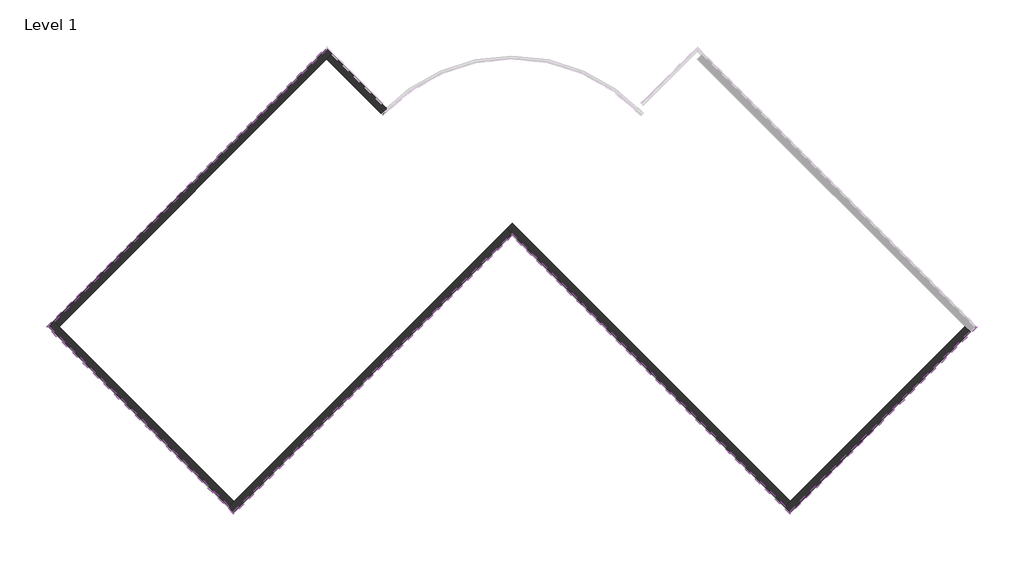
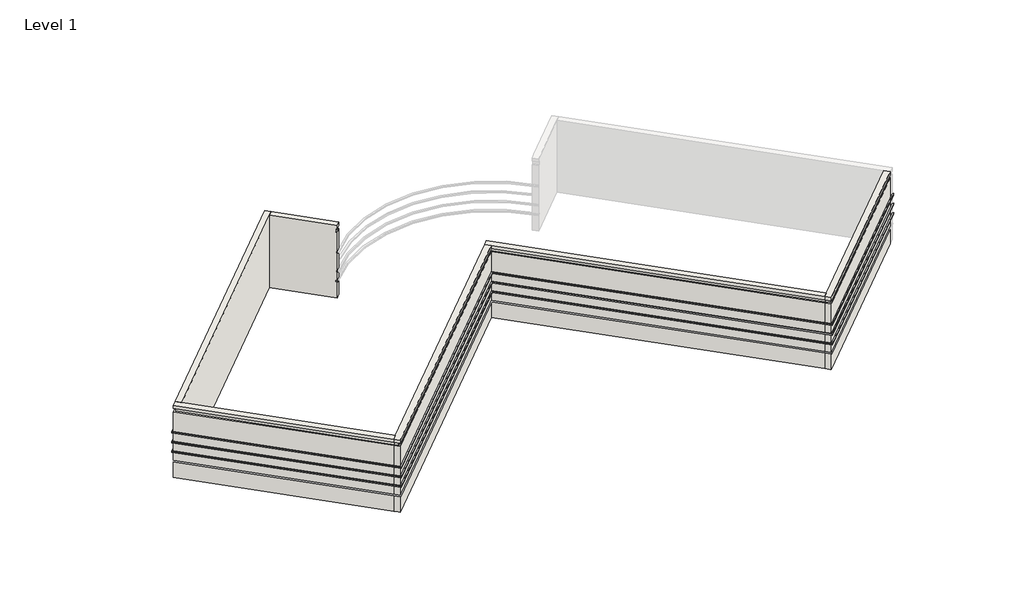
# One storey, part 1 of 2: 15 proxies, 6 walls.
"""IFC4 building model written with IfcOpenShell, lengths in millimetres."""

from ifc_helpers import new_model, si_unit, frame, origin, place, context, project, spatial, polyline, circle_curve, outline, extrude, faceted_brep, element, save
from ifc_brep_helpers import plane_surface, revolved_surface, advanced_brep

model = new_model("IFC4")

# Units and contexts
model_context = context("Model", 3, world=origin())
ifc_project = project(units=[si_unit("LENGTHUNIT", "METRE", prefix="MILLI")], contexts=[model_context])

# Site, building, storey
site = spatial("IfcSite", under=ifc_project)
building = spatial("IfcBuilding", under=site)
storey = spatial("IfcBuildingStorey", under=building, Name="Level 1", Elevation=0.0)

# Proxies
placement = place(None, origin())
element("IfcBuildingElementProxy", 1, Name="Reveals", at=placement, inside=storey, context=model_context, shape_type="SweptSolid", body=[
    extrude(outline(polyline([(21463.479104, 1676.4478837), (21593.6928178, 1676.4478837), (12878.3542523, -7038.8906818), (12878.3542523, -6908.6769681), (21463.479104, 1676.4478837)])), frame((0.0, 0.0, 1625.6), z_axis=(0.0, 0.0, 1.0), x_axis=(1.0, 0.0, 0.0)), (0.0, 0.0, 1.0), 67.7333333),
])
element("IfcBuildingElementProxy", 2, Name="Reveals", at=placement, inside=storey, context=model_context, shape_type="SweptSolid", body=[
    extrude(outline(polyline([(21463.479104, 1676.4478837), (21593.6928178, 1676.4478837), (12878.3542523, -7038.8906818), (12878.3542523, -6908.6769681), (21463.479104, 1676.4478837)])), frame((0.0, 0.0, 2235.2), z_axis=(0.0, 0.0, 1.0), x_axis=(1.0, 0.0, 0.0)), (0.0, 0.0, 1.0), 67.7333333),
])
element("IfcBuildingElementProxy", 3, Name="Reveals", at=placement, inside=storey, context=model_context, shape_type="SweptSolid", body=[
    extrude(outline(polyline([(21463.479104, 1676.4478837), (21593.6928178, 1676.4478837), (12878.3542523, -7038.8906818), (12878.3542523, -6908.6769681), (21463.479104, 1676.4478837)])), frame((0.0, 0.0, 2844.8), z_axis=(0.0, 0.0, 1.0), x_axis=(1.0, 0.0, 0.0)), (0.0, 0.0, 1.0), 67.7333333),
])
element("IfcBuildingElementProxy", 4, Name="Reveals", at=placement, inside=storey, context=model_context, shape_type="SweptSolid", body=[
    extrude(outline(polyline([(12878.3542523, -6908.6769681), (12878.3542523, -7038.8906818), (-53.2145621, 5892.6781325), (-53.2145621, 6022.8918463), (12878.3542523, -6908.6769681)])), frame((0.0, 0.0, 1625.6), z_axis=(0.0, 0.0, 1.0), x_axis=(1.0, 0.0, 0.0)), (0.0, 0.0, 1.0), 67.7333333),
])
element("IfcBuildingElementProxy", 5, Name="Reveals", at=placement, inside=storey, context=model_context, shape_type="SweptSolid", body=[
    extrude(outline(polyline([(12878.3542523, -6908.6769681), (12878.3542523, -7038.8906818), (-53.2145621, 5892.6781325), (-53.2145621, 6022.8918463), (12878.3542523, -6908.6769681)])), frame((0.0, 0.0, 2235.2), z_axis=(0.0, 0.0, 1.0), x_axis=(1.0, 0.0, 0.0)), (0.0, 0.0, 1.0), 67.7333333),
])
element("IfcBuildingElementProxy", 6, Name="Reveals", at=placement, inside=storey, context=model_context, shape_type="SweptSolid", body=[
    extrude(outline(polyline([(12878.3542523, -6908.6769681), (12878.3542523, -7038.8906818), (-53.2145621, 5892.6781325), (-53.2145621, 6022.8918463), (12878.3542523, -6908.6769681)])), frame((0.0, 0.0, 2844.8), z_axis=(0.0, 0.0, 1.0), x_axis=(1.0, 0.0, 0.0)), (0.0, 0.0, 1.0), 67.7333333),
])
element("IfcBuildingElementProxy", 7, Name="Reveals", at=placement, inside=storey, context=model_context, shape_type="SweptSolid", body=[
    extrude(outline(polyline([(-53.2145621, 6022.8918463), (-53.2145621, 5892.6781325), (-12984.7833764, -7038.8906818), (-12984.7833764, -6908.6769681), (-53.2145621, 6022.8918463)])), frame((0.0, 0.0, 1625.6), z_axis=(0.0, 0.0, 1.0), x_axis=(1.0, 0.0, 0.0)), (0.0, 0.0, 1.0), 67.7333333),
])
element("IfcBuildingElementProxy", 8, Name="Reveals", at=placement, inside=storey, context=model_context, shape_type="SweptSolid", body=[
    extrude(outline(polyline([(-53.2145621, 6022.8918463), (-53.2145621, 5892.6781325), (-12984.7833764, -7038.8906818), (-12984.7833764, -6908.6769681), (-53.2145621, 6022.8918463)])), frame((0.0, 0.0, 2235.2), z_axis=(0.0, 0.0, 1.0), x_axis=(1.0, 0.0, 0.0)), (0.0, 0.0, 1.0), 67.7333333),
])
element("IfcBuildingElementProxy", 9, Name="Reveals", at=placement, inside=storey, context=model_context, shape_type="SweptSolid", body=[
    extrude(outline(polyline([(-53.2145621, 6022.8918463), (-53.2145621, 5892.6781325), (-12984.7833764, -7038.8906818), (-12984.7833764, -6908.6769681), (-53.2145621, 6022.8918463)])), frame((0.0, 0.0, 2844.8), z_axis=(0.0, 0.0, 1.0), x_axis=(1.0, 0.0, 0.0)), (0.0, 0.0, 1.0), 67.7333333),
])
element("IfcBuildingElementProxy", 10, Name="Reveals", at=placement, inside=storey, context=model_context, shape_type="SweptSolid", body=[
    extrude(outline(polyline([(-12984.7833764, -6908.6769681), (-12984.7833764, -7038.8906818), (-21700.1219419, 1676.4478837), (-21569.9082281, 1676.4478837), (-12984.7833764, -6908.6769681)])), frame((0.0, 0.0, 1625.6), z_axis=(0.0, 0.0, 1.0), x_axis=(1.0, 0.0, 0.0)), (0.0, 0.0, 1.0), 67.7333333),
])
element("IfcBuildingElementProxy", 11, Name="Reveals", at=placement, inside=storey, context=model_context, shape_type="SweptSolid", body=[
    extrude(outline(polyline([(-12984.7833764, -6908.6769681), (-12984.7833764, -7038.8906818), (-21700.1219419, 1676.4478837), (-21569.9082281, 1676.4478837), (-12984.7833764, -6908.6769681)])), frame((0.0, 0.0, 2235.2), z_axis=(0.0, 0.0, 1.0), x_axis=(1.0, 0.0, 0.0)), (0.0, 0.0, 1.0), 67.7333333),
])
element("IfcBuildingElementProxy", 12, Name="Reveals", at=placement, inside=storey, context=model_context, shape_type="SweptSolid", body=[
    extrude(outline(polyline([(-12984.7833764, -6908.6769681), (-12984.7833764, -7038.8906818), (-21700.1219419, 1676.4478837), (-21569.9082281, 1676.4478837), (-12984.7833764, -6908.6769681)])), frame((0.0, 0.0, 2844.8), z_axis=(0.0, 0.0, 1.0), x_axis=(1.0, 0.0, 0.0)), (0.0, 0.0, 1.0), 67.7333333),
])
element("IfcBuildingElementProxy", 13, Name="Reveals", at=placement, inside=storey, context=model_context, shape_type="SweptSolid", body=[
    extrude(outline(polyline([(-21569.9082281, 1676.4478837), (-21700.1219419, 1676.4478837), (-8674.2604383, 14702.3093873), (-8674.2604383, 14572.0956735), (-21569.9082281, 1676.4478837)])), frame((0.0, 0.0, 1625.6), z_axis=(0.0, 0.0, 1.0), x_axis=(1.0, 0.0, 0.0)), (0.0, 0.0, 1.0), 67.7333333),
])
element("IfcBuildingElementProxy", 14, Name="Reveals", at=placement, inside=storey, context=model_context, shape_type="SweptSolid", body=[
    extrude(outline(polyline([(-21569.9082281, 1676.4478837), (-21700.1219419, 1676.4478837), (-8674.2604383, 14702.3093873), (-8674.2604383, 14572.0956735), (-21569.9082281, 1676.4478837)])), frame((0.0, 0.0, 2235.2), z_axis=(0.0, 0.0, 1.0), x_axis=(1.0, 0.0, 0.0)), (0.0, 0.0, 1.0), 67.7333333),
])
element("IfcBuildingElementProxy", 15, Name="Reveals", at=placement, inside=storey, context=model_context, shape_type="SweptSolid", body=[
    extrude(outline(polyline([(-21569.9082281, 1676.4478837), (-21700.1219419, 1676.4478837), (-8674.2604383, 14702.3093873), (-8674.2604383, 14572.0956735), (-21569.9082281, 1676.4478837)])), frame((0.0, 0.0, 2844.8), z_axis=(0.0, 0.0, 1.0), x_axis=(1.0, 0.0, 0.0)), (0.0, 0.0, 1.0), 67.7333333),
])

# Walls
element("IfcWall", 16, ObjectType="Exterior - Brick and CMU on MTL. Stud", at=placement, inside=storey, context=model_context, shape_type="Brep", body=[
    faceted_brep([(21000.9959138, 1676.4478837, 0.0), (12878.3542523, -6446.1937778, 0.0), (12629.1521449, -6695.3958852, 0.0), (12629.1521449, -6695.3958852, 1016.0), (12694.2590018, -6630.2890283, 1016.0), (12694.2590018, -6630.2890283, 1085.85), (12629.1521449, -6695.3958852, 1085.85), (12629.1521449, -6695.3958852, 1625.6), (12647.1126572, -6677.435373, 1625.6), (12647.1126572, -6677.435373, 1693.3333333), (12629.1521449, -6695.3958852, 1693.3333333), (12629.1521449, -6695.3958852, 2235.2), (12647.1126572, -6677.435373, 2235.2), (12647.1126572, -6677.435373, 2302.9333333), (12629.1521449, -6695.3958852, 2302.9333333), (12629.1521449, -6695.3958852, 2844.8), (12647.1126572, -6677.435373, 2844.8), (12647.1126572, -6677.435373, 2912.5333333), (12629.1521449, -6695.3958852, 2912.5333333), (12629.1521449, -6695.3958852, 4165.6), (12694.2590018, -6630.2890283, 4165.6), (12694.2590018, -6630.2890283, 4368.8), (12629.1521449, -6695.3958852, 4368.8), (12629.1521449, -6695.3958852, 4572.0), (12878.3542523, -6446.1937778, 4572.0), (21000.9959138, 1676.4478837, 4572.0), (21250.1980211, 1427.2457763, 4572.0), (12878.3542523, -6944.5979926, 4572.0), (12878.3542523, -6944.5979926, 4368.8), (21250.1980211, 1427.2457763, 4368.8), (12878.3542523, -6944.5979926, 0.0), (21250.1980211, 1427.2457763, 0.0), (21250.1980211, 1427.2457763, 1016.0), (12878.3542523, -6944.5979926, 1016.0), (12878.3542523, -6944.5979926, 1085.85), (21250.1980211, 1427.2457763, 1085.85), (21250.1980211, 1427.2457763, 1625.6), (12878.3542523, -6944.5979926, 1625.6), (21250.1980211, 1427.2457763, 4165.6), (12878.3542523, -6944.5979926, 4165.6), (12878.3542523, -6944.5979926, 2912.5333333), (21250.1980211, 1427.2457763, 2912.5333333), (12878.3542523, -6944.5979926, 1693.3333333), (21250.1980211, 1427.2457763, 1693.3333333), (21250.1980211, 1427.2457763, 2235.2), (12878.3542523, -6944.5979926, 2235.2), (12878.3542523, -6944.5979926, 2302.9333333), (21250.1980211, 1427.2457763, 2302.9333333), (21250.1980211, 1427.2457763, 2844.8), (12878.3542523, -6944.5979926, 2844.8), (12813.2473954, -6879.4911357, 0.0), (21185.0911643, 1492.3526332, 4368.8), (21185.0911643, 1492.3526332, 4165.6), (21232.2375089, 1445.2062886, 2912.5333333), (21232.2375089, 1445.2062886, 2844.8), (21232.2375089, 1445.2062886, 2302.9333333), (21232.2375089, 1445.2062886, 2235.2), (21232.2375089, 1445.2062886, 1693.3333333), (21232.2375089, 1445.2062886, 1625.6), (21185.0911643, 1492.3526332, 1085.85), (21185.0911643, 1492.3526332, 1016.0), (21185.0911643, 1492.3526332, 0.0), (12878.3542523, -6814.3842788, 1085.85), (12878.3542523, -6814.3842788, 1016.0), (12878.3542523, -6814.3842788, 4165.6), (12878.3542523, -6814.3842788, 4368.8), (12878.3542523, -6908.6769681, 1693.3333333), (12878.3542523, -6908.6769681, 1625.6), (12878.3542523, -6908.6769681, 2302.9333333), (12878.3542523, -6908.6769681, 2235.2), (12878.3542523, -6908.6769681, 2912.5333333), (12878.3542523, -6908.6769681, 2844.8)], [[[0, 1, 2, 3, 4, 5, 6, 7, 8, 9, 10, 11, 12, 13, 14, 15, 16, 17, 18, 19, 20, 21, 22, 23, 24, 25]], [[26, 27, 28, 29]], [[30, 31, 32, 33]], [[34, 35, 36, 37]], [[38, 39, 40, 41]], [[42, 43, 44, 45]], [[46, 47, 48, 49]], [[25, 24, 23, 27, 26]], [[27, 23, 22, 28]], [[2, 50, 30, 33, 3]], [[6, 34, 37, 7]], [[39, 19, 18, 40]], [[10, 42, 45, 11]], [[14, 46, 49, 15]], [[0, 25, 26, 29, 51, 52, 38, 41, 53, 54, 48, 47, 55, 56, 44, 43, 57, 58, 36, 35, 59, 60, 32, 31, 61]], [[2, 1, 0, 61, 50]], [[61, 31, 30, 50]], [[5, 62, 59, 35, 34, 6]], [[60, 63, 4, 3, 33, 32]], [[62, 63, 60, 59]], [[63, 62, 5, 4]], [[52, 64, 20, 19, 39, 38]], [[21, 65, 51, 29, 28, 22]], [[65, 64, 52, 51]], [[64, 65, 21, 20]], [[9, 66, 57, 43, 42, 10]], [[58, 67, 8, 7, 37, 36]], [[66, 67, 58, 57]], [[67, 66, 9, 8]], [[13, 68, 55, 47, 46, 14]], [[56, 69, 12, 11, 45, 44]], [[68, 69, 56, 55]], [[69, 68, 13, 12]], [[17, 70, 53, 41, 40, 18]], [[54, 71, 16, 15, 49, 48]], [[70, 71, 54, 53]], [[71, 70, 17, 16]]]),
])
element("IfcWall", 17, ObjectType="Exterior - Brick and CMU on MTL. Stud", at=placement, inside=storey, context=model_context, shape_type="Brep", body=[
    faceted_brep([(12878.3542523, -6446.1937778, 0.0), (-53.2145621, 6485.3750365, 0.0), (-53.2145621, 6485.3750365, 4572.0), (12878.3542523, -6446.1937778, 4572.0), (12629.1521449, -6695.3958852, 4572.0), (-53.2145621, 5986.9708218, 4572.0), (-302.4166694, 6236.1729291, 4572.0), (-302.4166694, 6236.1729291, 0.0), (-53.2145621, 5986.9708218, 0.0), (12629.1521449, -6695.3958852, 0.0), (12629.1521449, -6695.3958852, 1016.0), (-53.2145621, 5986.9708218, 1016.0), (-118.3214189, 6052.0776787, 1016.0), (-118.3214189, 6052.0776787, 1085.85), (-53.2145621, 5986.9708218, 1085.85), (12629.1521449, -6695.3958852, 1085.85), (12629.1521449, -6695.3958852, 1625.6), (-53.2145621, 5986.9708218, 1625.6), (-71.1750743, 6004.931334, 1625.6), (-71.1750743, 6004.931334, 1693.3333333), (-53.2145621, 5986.9708218, 1693.3333333), (12629.1521449, -6695.3958852, 1693.3333333), (12629.1521449, -6695.3958852, 2235.2), (-53.2145621, 5986.9708218, 2235.2), (-71.1750743, 6004.931334, 2235.2), (-71.1750743, 6004.931334, 2302.9333333), (-53.2145621, 5986.9708218, 2302.9333333), (12629.1521449, -6695.3958852, 2302.9333333), (12629.1521449, -6695.3958852, 2844.8), (-53.2145621, 5986.9708218, 2844.8), (-71.1750743, 6004.931334, 2844.8), (-71.1750743, 6004.931334, 2912.5333333), (-53.2145621, 5986.9708218, 2912.5333333), (12629.1521449, -6695.3958852, 2912.5333333), (12629.1521449, -6695.3958852, 4165.6), (-53.2145621, 5986.9708218, 4165.6), (-118.3214189, 6052.0776787, 4165.6), (-118.3214189, 6052.0776787, 4368.8), (-53.2145621, 5986.9708218, 4368.8), (12629.1521449, -6695.3958852, 4368.8), (-237.3098125, 6301.279786, 0.0), (12694.2590018, -6630.2890283, 4368.8), (12694.2590018, -6630.2890283, 4165.6), (12647.1126572, -6677.435373, 2912.5333333), (12647.1126572, -6677.435373, 2844.8), (12647.1126572, -6677.435373, 2302.9333333), (12647.1126572, -6677.435373, 2235.2), (12647.1126572, -6677.435373, 1693.3333333), (12647.1126572, -6677.435373, 1625.6), (12694.2590018, -6630.2890283, 1085.85), (12694.2590018, -6630.2890283, 1016.0), (12694.2590018, -6630.2890283, 0.0), (-53.2145621, 6117.1845355, 1085.85), (-53.2145621, 6117.1845355, 1016.0), (-53.2145621, 6117.1845355, 4165.6), (-53.2145621, 6117.1845355, 4368.8), (-53.2145621, 6022.8918463, 1693.3333333), (-53.2145621, 6022.8918463, 1625.6), (-53.2145621, 6022.8918463, 2302.9333333), (-53.2145621, 6022.8918463, 2235.2), (-53.2145621, 6022.8918463, 2912.5333333), (-53.2145621, 6022.8918463, 2844.8)], [[[0, 1, 2, 3]], [[4, 5, 6, 7, 8, 9, 10, 11, 12, 13, 14, 15, 16, 17, 18, 19, 20, 21, 22, 23, 24, 25, 26, 27, 28, 29, 30, 31, 32, 33, 34, 35, 36, 37, 38, 39]], [[3, 2, 6, 5, 4]], [[2, 1, 40, 7, 6]], [[0, 3, 4, 39, 41, 42, 34, 33, 43, 44, 28, 27, 45, 46, 22, 21, 47, 48, 16, 15, 49, 50, 10, 9, 51]], [[1, 0, 51, 40]], [[51, 9, 8, 7, 40]], [[13, 52, 49, 15, 14]], [[50, 53, 12, 11, 10]], [[52, 53, 50, 49]], [[53, 52, 13, 12]], [[42, 54, 36, 35, 34]], [[37, 55, 41, 39, 38]], [[55, 54, 42, 41]], [[54, 55, 37, 36]], [[19, 56, 47, 21, 20]], [[48, 57, 18, 17, 16]], [[56, 57, 48, 47]], [[57, 56, 19, 18]], [[25, 58, 45, 27, 26]], [[46, 59, 24, 23, 22]], [[58, 59, 46, 45]], [[59, 58, 25, 24]], [[31, 60, 43, 33, 32]], [[44, 61, 30, 29, 28]], [[60, 61, 44, 43]], [[61, 60, 31, 30]]]),
])
element("IfcWall", 18, ObjectType="Exterior - Brick and CMU on MTL. Stud", at=placement, inside=storey, context=model_context, shape_type="Brep", body=[
    faceted_brep([(-302.4166694, 6236.1729291, 0.0), (-12984.7833764, -6446.1937778, 0.0), (-13233.9854838, -6695.3958852, 0.0), (-13233.9854838, -6695.3958852, 1016.0), (-13168.8786269, -6630.2890283, 1016.0), (-13168.8786269, -6630.2890283, 1085.85), (-13233.9854838, -6695.3958852, 1085.85), (-13233.9854838, -6695.3958852, 1625.6), (-13216.0249715, -6677.435373, 1625.6), (-13216.0249715, -6677.435373, 1693.3333333), (-13233.9854838, -6695.3958852, 1693.3333333), (-13233.9854838, -6695.3958852, 2235.2), (-13216.0249715, -6677.435373, 2235.2), (-13216.0249715, -6677.435373, 2302.9333333), (-13233.9854838, -6695.3958852, 2302.9333333), (-13233.9854838, -6695.3958852, 2844.8), (-13216.0249715, -6677.435373, 2844.8), (-13216.0249715, -6677.435373, 2912.5333333), (-13233.9854838, -6695.3958852, 2912.5333333), (-13233.9854838, -6695.3958852, 4165.6), (-13168.8786269, -6630.2890283, 4165.6), (-13168.8786269, -6630.2890283, 4368.8), (-13233.9854838, -6695.3958852, 4368.8), (-13233.9854838, -6695.3958852, 4572.0), (-12984.7833764, -6446.1937778, 4572.0), (-302.4166694, 6236.1729291, 4572.0), (-53.2145621, 5986.9708218, 4572.0), (-12984.7833764, -6944.5979926, 4572.0), (-12984.7833764, -6944.5979926, 4368.8), (-53.2145621, 5986.9708218, 4368.8), (-12984.7833764, -6944.5979926, 0.0), (-53.2145621, 5986.9708218, 0.0), (-53.2145621, 5986.9708218, 1016.0), (-12984.7833764, -6944.5979926, 1016.0), (-12984.7833764, -6944.5979926, 1085.85), (-53.2145621, 5986.9708218, 1085.85), (-53.2145621, 5986.9708218, 1625.6), (-12984.7833764, -6944.5979926, 1625.6), (-53.2145621, 5986.9708218, 4165.6), (-12984.7833764, -6944.5979926, 4165.6), (-12984.7833764, -6944.5979926, 2912.5333333), (-53.2145621, 5986.9708218, 2912.5333333), (-12984.7833764, -6944.5979926, 1693.3333333), (-53.2145621, 5986.9708218, 1693.3333333), (-53.2145621, 5986.9708218, 2235.2), (-12984.7833764, -6944.5979926, 2235.2), (-12984.7833764, -6944.5979926, 2302.9333333), (-53.2145621, 5986.9708218, 2302.9333333), (-53.2145621, 5986.9708218, 2844.8), (-12984.7833764, -6944.5979926, 2844.8), (-13049.8902333, -6879.4911357, 0.0), (-118.3214189, 6052.0776787, 4368.8), (-118.3214189, 6052.0776787, 4165.6), (-71.1750743, 6004.931334, 2912.5333333), (-71.1750743, 6004.931334, 2844.8), (-71.1750743, 6004.931334, 2302.9333333), (-71.1750743, 6004.931334, 2235.2), (-71.1750743, 6004.931334, 1693.3333333), (-71.1750743, 6004.931334, 1625.6), (-118.3214189, 6052.0776787, 1085.85), (-118.3214189, 6052.0776787, 1016.0), (-118.3214189, 6052.0776787, 0.0), (-12984.7833764, -6814.3842788, 1085.85), (-12984.7833764, -6814.3842788, 1016.0), (-12984.7833764, -6814.3842788, 4165.6), (-12984.7833764, -6814.3842788, 4368.8), (-12984.7833764, -6908.6769681, 1693.3333333), (-12984.7833764, -6908.6769681, 1625.6), (-12984.7833764, -6908.6769681, 2302.9333333), (-12984.7833764, -6908.6769681, 2235.2), (-12984.7833764, -6908.6769681, 2912.5333333), (-12984.7833764, -6908.6769681, 2844.8)], [[[0, 1, 2, 3, 4, 5, 6, 7, 8, 9, 10, 11, 12, 13, 14, 15, 16, 17, 18, 19, 20, 21, 22, 23, 24, 25]], [[26, 27, 28, 29]], [[30, 31, 32, 33]], [[34, 35, 36, 37]], [[38, 39, 40, 41]], [[42, 43, 44, 45]], [[46, 47, 48, 49]], [[25, 24, 23, 27, 26]], [[27, 23, 22, 28]], [[2, 50, 30, 33, 3]], [[6, 34, 37, 7]], [[39, 19, 18, 40]], [[10, 42, 45, 11]], [[14, 46, 49, 15]], [[0, 25, 26, 29, 51, 52, 38, 41, 53, 54, 48, 47, 55, 56, 44, 43, 57, 58, 36, 35, 59, 60, 32, 31, 61]], [[2, 1, 0, 61, 50]], [[61, 31, 30, 50]], [[5, 62, 59, 35, 34, 6]], [[60, 63, 4, 3, 33, 32]], [[62, 63, 60, 59]], [[63, 62, 5, 4]], [[52, 64, 20, 19, 39, 38]], [[21, 65, 51, 29, 28, 22]], [[65, 64, 52, 51]], [[64, 65, 21, 20]], [[9, 66, 57, 43, 42, 10]], [[58, 67, 8, 7, 37, 36]], [[66, 67, 58, 57]], [[67, 66, 9, 8]], [[13, 68, 55, 47, 46, 14]], [[56, 69, 12, 11, 45, 44]], [[68, 69, 56, 55]], [[69, 68, 13, 12]], [[17, 70, 53, 41, 40, 18]], [[54, 71, 16, 15, 49, 48]], [[70, 71, 54, 53]], [[71, 70, 17, 16]]]),
])
element("IfcWall", 19, ObjectType="Exterior - Brick and CMU on MTL. Stud", at=placement, inside=storey, context=model_context, shape_type="Brep", body=[
    faceted_brep([(-12984.7833764, -6446.1937778, 0.0), (-21107.4250379, 1676.4478837, 0.0), (-21356.6271453, 1925.649991, 0.0), (-21356.6271453, 1925.649991, 1016.0), (-21291.5202884, 1860.5431342, 1016.0), (-21291.5202884, 1860.5431342, 1085.85), (-21356.6271453, 1925.649991, 1085.85), (-21356.6271453, 1925.649991, 1625.6), (-21338.666633, 1907.6894788, 1625.6), (-21338.666633, 1907.6894788, 1693.3333333), (-21356.6271453, 1925.649991, 1693.3333333), (-21356.6271453, 1925.649991, 2235.2), (-21338.666633, 1907.6894788, 2235.2), (-21338.666633, 1907.6894788, 2302.9333333), (-21356.6271453, 1925.649991, 2302.9333333), (-21356.6271453, 1925.649991, 2844.8), (-21338.666633, 1907.6894788, 2844.8), (-21338.666633, 1907.6894788, 2912.5333333), (-21356.6271453, 1925.649991, 2912.5333333), (-21356.6271453, 1925.649991, 4165.6), (-21291.5202884, 1860.5431342, 4165.6), (-21291.5202884, 1860.5431342, 4368.8), (-21356.6271453, 1925.649991, 4368.8), (-21356.6271453, 1925.649991, 4572.0), (-21107.4250379, 1676.4478837, 4572.0), (-12984.7833764, -6446.1937778, 4572.0), (-13233.9854838, -6695.3958852, 4572.0), (-21605.8292526, 1676.4478837, 4572.0), (-21605.8292526, 1676.4478837, 4368.8), (-13233.9854838, -6695.3958852, 4368.8), (-21605.8292526, 1676.4478837, 0.0), (-13233.9854838, -6695.3958852, 0.0), (-13233.9854838, -6695.3958852, 1016.0), (-21605.8292526, 1676.4478837, 1016.0), (-21605.8292526, 1676.4478837, 1085.85), (-13233.9854838, -6695.3958852, 1085.85), (-13233.9854838, -6695.3958852, 1625.6), (-21605.8292526, 1676.4478837, 1625.6), (-13233.9854838, -6695.3958852, 4165.6), (-21605.8292526, 1676.4478837, 4165.6), (-21605.8292526, 1676.4478837, 2912.5333333), (-13233.9854838, -6695.3958852, 2912.5333333), (-21605.8292526, 1676.4478837, 1693.3333333), (-13233.9854838, -6695.3958852, 1693.3333333), (-13233.9854838, -6695.3958852, 2235.2), (-21605.8292526, 1676.4478837, 2235.2), (-21605.8292526, 1676.4478837, 2302.9333333), (-13233.9854838, -6695.3958852, 2302.9333333), (-13233.9854838, -6695.3958852, 2844.8), (-21605.8292526, 1676.4478837, 2844.8), (-21540.7223958, 1741.5547405, 0.0), (-13168.8786269, -6630.2890283, 4368.8), (-13168.8786269, -6630.2890283, 4165.6), (-13216.0249715, -6677.435373, 2912.5333333), (-13216.0249715, -6677.435373, 2844.8), (-13216.0249715, -6677.435373, 2302.9333333), (-13216.0249715, -6677.435373, 2235.2), (-13216.0249715, -6677.435373, 1693.3333333), (-13216.0249715, -6677.435373, 1625.6), (-13168.8786269, -6630.2890283, 1085.85), (-13168.8786269, -6630.2890283, 1016.0), (-13168.8786269, -6630.2890283, 0.0), (-21475.6155389, 1676.4478837, 1085.85), (-21475.6155389, 1676.4478837, 1016.0), (-21475.6155389, 1676.4478837, 4165.6), (-21475.6155389, 1676.4478837, 4368.8), (-21569.9082281, 1676.4478837, 1693.3333333), (-21569.9082281, 1676.4478837, 1625.6), (-21569.9082281, 1676.4478837, 2302.9333333), (-21569.9082281, 1676.4478837, 2235.2), (-21569.9082281, 1676.4478837, 2912.5333333), (-21569.9082281, 1676.4478837, 2844.8)], [[[0, 1, 2, 3, 4, 5, 6, 7, 8, 9, 10, 11, 12, 13, 14, 15, 16, 17, 18, 19, 20, 21, 22, 23, 24, 25]], [[26, 27, 28, 29]], [[30, 31, 32, 33]], [[34, 35, 36, 37]], [[38, 39, 40, 41]], [[42, 43, 44, 45]], [[46, 47, 48, 49]], [[25, 24, 23, 27, 26]], [[27, 23, 22, 28]], [[2, 50, 30, 33, 3]], [[6, 34, 37, 7]], [[39, 19, 18, 40]], [[10, 42, 45, 11]], [[14, 46, 49, 15]], [[0, 25, 26, 29, 51, 52, 38, 41, 53, 54, 48, 47, 55, 56, 44, 43, 57, 58, 36, 35, 59, 60, 32, 31, 61]], [[2, 1, 0, 61, 50]], [[61, 31, 30, 50]], [[5, 62, 59, 35, 34, 6]], [[60, 63, 4, 3, 33, 32]], [[62, 63, 60, 59]], [[63, 62, 5, 4]], [[52, 64, 20, 19, 39, 38]], [[21, 65, 51, 29, 28, 22]], [[65, 64, 52, 51]], [[64, 65, 21, 20]], [[9, 66, 57, 43, 42, 10]], [[58, 67, 8, 7, 37, 36]], [[66, 67, 58, 57]], [[67, 66, 9, 8]], [[13, 68, 55, 47, 46, 14]], [[56, 69, 12, 11, 45, 44]], [[68, 69, 56, 55]], [[69, 68, 13, 12]], [[17, 70, 53, 41, 40, 18]], [[54, 71, 16, 15, 49, 48]], [[70, 71, 54, 53]], [[71, 70, 17, 16]]]),
])
element("IfcWall", 20, ObjectType="Exterior - Brick and CMU on MTL. Stud", at=placement, inside=storey, context=model_context, shape_type="Brep", body=[
    faceted_brep([(-21107.4250379, 1676.4478837, 0.0), (-8674.2604383, 14109.6124833, 0.0), (-8425.0583309, 14358.8145906, 0.0), (-8425.0583309, 14358.8145906, 1016.0), (-8490.1651878, 14293.7077338, 1016.0), (-8490.1651878, 14293.7077338, 1085.85), (-8425.0583309, 14358.8145906, 1085.85), (-8425.0583309, 14358.8145906, 1625.6), (-8443.0188432, 14340.8540784, 1625.6), (-8443.0188432, 14340.8540784, 1693.3333333), (-8425.0583309, 14358.8145906, 1693.3333333), (-8425.0583309, 14358.8145906, 2235.2), (-8443.0188432, 14340.8540784, 2235.2), (-8443.0188432, 14340.8540784, 2302.9333333), (-8425.0583309, 14358.8145906, 2302.9333333), (-8425.0583309, 14358.8145906, 2844.8), (-8443.0188432, 14340.8540784, 2844.8), (-8443.0188432, 14340.8540784, 2912.5333333), (-8425.0583309, 14358.8145906, 2912.5333333), (-8425.0583309, 14358.8145906, 4165.6), (-8490.1651878, 14293.7077338, 4165.6), (-8490.1651878, 14293.7077338, 4368.8), (-8425.0583309, 14358.8145906, 4368.8), (-8425.0583309, 14358.8145906, 4572.0), (-8674.2604383, 14109.6124833, 4572.0), (-21107.4250379, 1676.4478837, 4572.0), (-21356.6271453, 1925.649991, 4572.0), (-8674.2604383, 14608.016698, 4572.0), (-8674.2604383, 14608.016698, 4368.8), (-21356.6271453, 1925.649991, 4368.8), (-8674.2604383, 14608.016698, 0.0), (-21356.6271453, 1925.649991, 0.0), (-21356.6271453, 1925.649991, 1016.0), (-8674.2604383, 14608.016698, 1016.0), (-8674.2604383, 14608.016698, 1085.85), (-21356.6271453, 1925.649991, 1085.85), (-21356.6271453, 1925.649991, 1625.6), (-8674.2604383, 14608.016698, 1625.6), (-21356.6271453, 1925.649991, 4165.6), (-8674.2604383, 14608.016698, 4165.6), (-8674.2604383, 14608.016698, 2912.5333333), (-21356.6271453, 1925.649991, 2912.5333333), (-8674.2604383, 14608.016698, 1693.3333333), (-21356.6271453, 1925.649991, 1693.3333333), (-21356.6271453, 1925.649991, 2235.2), (-8674.2604383, 14608.016698, 2235.2), (-8674.2604383, 14608.016698, 2302.9333333), (-21356.6271453, 1925.649991, 2302.9333333), (-21356.6271453, 1925.649991, 2844.8), (-8674.2604383, 14608.016698, 2844.8), (-8609.1535814, 14542.9098411, 0.0), (-21291.5202884, 1860.5431342, 4368.8), (-21291.5202884, 1860.5431342, 4165.6), (-21338.666633, 1907.6894788, 2912.5333333), (-21338.666633, 1907.6894788, 2844.8), (-21338.666633, 1907.6894788, 2302.9333333), (-21338.666633, 1907.6894788, 2235.2), (-21338.666633, 1907.6894788, 1693.3333333), (-21338.666633, 1907.6894788, 1625.6), (-21291.5202884, 1860.5431342, 1085.85), (-21291.5202884, 1860.5431342, 1016.0), (-21291.5202884, 1860.5431342, 0.0), (-8674.2604383, 14477.8029843, 1085.85), (-8674.2604383, 14477.8029843, 1016.0), (-8674.2604383, 14477.8029843, 4165.6), (-8674.2604383, 14477.8029843, 4368.8), (-8674.2604383, 14572.0956735, 1693.3333333), (-8674.2604383, 14572.0956735, 1625.6), (-8674.2604383, 14572.0956735, 2302.9333333), (-8674.2604383, 14572.0956735, 2235.2), (-8674.2604383, 14572.0956735, 2912.5333333), (-8674.2604383, 14572.0956735, 2844.8)], [[[0, 1, 2, 3, 4, 5, 6, 7, 8, 9, 10, 11, 12, 13, 14, 15, 16, 17, 18, 19, 20, 21, 22, 23, 24, 25]], [[26, 27, 28, 29]], [[30, 31, 32, 33]], [[34, 35, 36, 37]], [[38, 39, 40, 41]], [[42, 43, 44, 45]], [[46, 47, 48, 49]], [[25, 24, 23, 27, 26]], [[27, 23, 22, 28]], [[2, 50, 30, 33, 3]], [[6, 34, 37, 7]], [[39, 19, 18, 40]], [[10, 42, 45, 11]], [[14, 46, 49, 15]], [[0, 25, 26, 29, 51, 52, 38, 41, 53, 54, 48, 47, 55, 56, 44, 43, 57, 58, 36, 35, 59, 60, 32, 31, 61]], [[2, 1, 0, 61, 50]], [[61, 31, 30, 50]], [[5, 62, 59, 35, 34, 6]], [[60, 63, 4, 3, 33, 32]], [[62, 63, 60, 59]], [[63, 62, 5, 4]], [[52, 64, 20, 19, 39, 38]], [[21, 65, 51, 29, 28, 22]], [[65, 64, 52, 51]], [[64, 65, 21, 20]], [[9, 66, 57, 43, 42, 10]], [[58, 67, 8, 7, 37, 36]], [[66, 67, 58, 57]], [[67, 66, 9, 8]], [[13, 68, 55, 47, 46, 14]], [[56, 69, 12, 11, 45, 44]], [[68, 69, 56, 55]], [[69, 68, 13, 12]], [[17, 70, 53, 41, 40, 18]], [[54, 71, 16, 15, 49, 48]], [[70, 71, 54, 53]], [[71, 70, 17, 16]]]),
])
element("IfcWall", 21, ObjectType="Exterior - Brick and CMU on MTL. Stud", at=placement, inside=storey, context=model_context, shape_type="AdvancedBrep", body=[
    advanced_brep(
    [(-8674.2604383, 14109.6124833, 0.0), (-6092.5945626, 11527.9466076, 0.0), (-6092.5945626, 11527.9466076, 1016.0), (-6157.74939, 11593.101435, 1016.0), (-6157.74939, 11593.101435, 1085.85), (-6092.5945626, 11527.9466076, 1085.85), (-6092.5945626, 11527.9466076, 1625.6), (-6110.5684151, 11545.9204601, 1625.6), (-6110.5684151, 11545.9204601, 1693.3333333), (-6092.5945626, 11527.9466076, 1693.3333333), (-6092.5945626, 11527.9466076, 2844.8), (-6110.5684151, 11545.9204601, 2844.8), (-6110.5684151, 11545.9204601, 2912.5333333), (-6092.5945626, 11527.9466076, 2912.5333333), (-6092.5945626, 11527.9466076, 4165.6), (-6157.74939, 11593.101435, 4165.6), (-6157.74939, 11593.101435, 4368.8), (-6092.5945626, 11527.9466076, 4368.8), (-6092.5945626, 11527.9466076, 4572.0), (-8674.2604383, 14109.6124833, 4572.0), (-8425.0583309, 14358.8145906, 4572.0), (-6096.8766811, 12030.6329408, 4572.0), (-5847.6724218, 11781.4286815, 4572.0), (-5847.6724218, 11781.4286815, 4368.8), (-5912.7798585, 11846.5361182, 4368.8), (-5912.7798585, 11846.5361182, 4165.6), (-5847.6724218, 11781.4286815, 4165.6), (-5847.6724218, 11781.4286815, 2912.5333333), (-5865.6330953, 11799.389355, 2912.5333333), (-5865.6330953, 11799.389355, 2844.8), (-5847.6724218, 11781.4286815, 2844.8), (-5847.6724218, 11781.4286815, 2302.9333333), (-5847.6724218, 11781.4286815, 2235.2), (-5847.6724218, 11781.4286815, 1693.3333333), (-5865.6330953, 11799.389355, 1693.3333333), (-5865.6330953, 11799.389355, 1625.6), (-5847.6724218, 11781.4286815, 1625.6), (-5847.6724218, 11781.4286815, 1085.85), (-5912.7798585, 11846.5361182, 1085.85), (-5912.7798585, 11846.5361182, 1016.0), (-5847.6724218, 11781.4286815, 1016.0), (-5847.6724218, 11781.4286815, 0.0), (-6096.8766811, 12030.6329408, 0.0), (-8425.0583309, 14358.8145906, 0.0), (-8425.0583309, 14358.8145906, 1016.0), (-6096.8766811, 12030.6329408, 1016.0), (-6096.8766811, 12030.6329408, 1085.85), (-8425.0583309, 14358.8145906, 1085.85), (-8425.0583309, 14358.8145906, 1625.6), (-6096.8766811, 12030.6329408, 1625.6), (-6096.8766811, 12030.6329408, 1693.3333333), (-8425.0583309, 14358.8145906, 1693.3333333), (-8425.0583309, 14358.8145906, 2235.2), (-6096.8766811, 12030.6329408, 2235.2), (-6096.8766811, 12030.6329408, 2302.9333333), (-8425.0583309, 14358.8145906, 2302.9333333), (-8425.0583309, 14358.8145906, 2844.8), (-6096.8766811, 12030.6329408, 2844.8), (-6096.8766811, 12030.6329408, 2912.5333333), (-8425.0583309, 14358.8145906, 2912.5333333), (-8425.0583309, 14358.8145906, 4165.6), (-6096.8766811, 12030.6329408, 4165.6), (-6096.8766811, 12030.6329408, 4368.8), (-8425.0583309, 14358.8145906, 4368.8), (-5912.6913629, 11716.2339088, 0.0), (-8490.1651878, 14293.7077338, 4368.8), (-8490.1651878, 14293.7077338, 4165.6), (-8443.0188432, 14340.8540784, 2912.5333333), (-8443.0188432, 14340.8540784, 2844.8), (-8443.0188432, 14340.8540784, 2302.9333333), (-8443.0188432, 14340.8540784, 2235.2), (-8443.0188432, 14340.8540784, 1693.3333333), (-8443.0188432, 14340.8540784, 1625.6), (-8490.1651878, 14293.7077338, 1085.85), (-8490.1651878, 14293.7077338, 1016.0), (-8490.1651878, 14293.7077338, 0.0), (-6161.983538, 11965.5260839, 1085.85), (-6161.983538, 11965.5260839, 1016.0), (-6161.983538, 11965.5260839, 4165.6), (-6161.983538, 11965.5260839, 4368.8), (-6114.8371933, 12012.6724286, 1693.3333333), (-6114.8371933, 12012.6724286, 1625.6), (-6114.8371933, 12012.6724286, 2302.9333333), (-6114.8371933, 12012.6724286, 2235.2), (-6114.8371933, 12012.6724286, 2912.5333333), (-6114.8371933, 12012.6724286, 2844.8)],
    [
        (0, 1),
        (1, 2),
        (2, 3),
        (3, 4),
        (4, 5),
        (5, 6),
        (6, 7),
        (7, 8),
        (8, 9),
        (9, 10),
        (10, 11),
        (11, 12),
        (12, 13),
        (13, 14),
        (14, 15),
        (15, 16),
        (16, 17),
        (17, 18),
        (18, 19),
        (19, 0),
        (20, 21),
        (21, 22),
        (22, 23),
        (23, 24),
        (24, 25),
        (25, 26),
        (26, 27),
        (27, 28),
        (28, 29),
        (29, 30),
        (30, 31),
        (31, 32),
        (32, 33),
        (33, 34),
        (34, 35),
        (35, 36),
        (36, 37),
        (37, 38),
        (38, 39),
        (39, 40),
        (40, 41),
        (41, 42),
        (42, 43),
        (43, 44),
        (44, 45),
        (45, 46),
        (46, 47),
        (47, 48),
        (48, 49),
        (49, 50),
        (50, 51),
        (51, 52),
        (52, 53),
        (53, 54),
        (54, 55),
        (55, 56),
        (56, 57),
        (57, 58),
        (58, 59),
        (59, 60),
        (60, 61),
        (61, 62),
        (62, 63),
        (63, 20),
        (18, 22, circle_curve(frame((-53.2145621, 5937.5794131, 4572.0), z_axis=(0.0, 0.0, -1.0), x_axis=(1.0, 0.0, 0.0)), 8229.6)),
        (20, 19),
        (17, 23, circle_curve(frame((-53.2145621, 5937.5794131, 4368.8), z_axis=(0.0, 0.0, -1.0), x_axis=(1.0, 0.0, 0.0)), 8229.6)),
        (1, 64, circle_curve(frame((-53.2145621, 5937.5794131, 0.0), z_axis=(0.0, 0.0, -1.0), x_axis=(1.0, 0.0, 0.0)), 8229.6)),
        (64, 41, circle_curve(frame((-53.2145621, 5937.5794131, 0.0), z_axis=(0.0, 0.0, -1.0), x_axis=(1.0, 0.0, 0.0)), 8229.6)),
        (40, 2, circle_curve(frame((-53.2145621, 5937.5794131, 1016.0), z_axis=(0.0, 0.0, 1.0), x_axis=(1.0, 0.0, 0.0)), 8229.6)),
        (5, 37, circle_curve(frame((-53.2145621, 5937.5794131, 1085.85), z_axis=(0.0, 0.0, -1.0), x_axis=(1.0, 0.0, 0.0)), 8229.6)),
        (36, 6, circle_curve(frame((-53.2145621, 5937.5794131, 1625.6), z_axis=(0.0, 0.0, 1.0), x_axis=(1.0, 0.0, 0.0)), 8229.6)),
        (26, 14, circle_curve(frame((-53.2145621, 5937.5794131, 4165.6), z_axis=(0.0, 0.0, 1.0), x_axis=(1.0, 0.0, 0.0)), 8229.6)),
        (13, 27, circle_curve(frame((-53.2145621, 5937.5794131, 2912.5333333), z_axis=(0.0, 0.0, -1.0), x_axis=(1.0, 0.0, 0.0)), 8229.6)),
        (9, 33, circle_curve(frame((-53.2145621, 5937.5794131, 1693.3333333), z_axis=(0.0, 0.0, -1.0), x_axis=(1.0, 0.0, 0.0)), 8229.6)),
        (30, 10, circle_curve(frame((-53.2145621, 5937.5794131, 2844.8), z_axis=(0.0, 0.0, 1.0), x_axis=(1.0, 0.0, 0.0)), 8229.6)),
        (63, 65),
        (65, 66),
        (66, 60),
        (59, 67),
        (67, 68),
        (68, 56),
        (55, 69),
        (69, 70),
        (70, 52),
        (51, 71),
        (71, 72),
        (72, 48),
        (47, 73),
        (73, 74),
        (74, 44),
        (43, 75),
        (75, 0),
        (75, 64),
        (46, 76),
        (76, 73),
        (77, 45),
        (74, 77),
        (77, 76),
        (78, 61),
        (66, 78),
        (62, 79),
        (79, 65),
        (78, 79),
        (38, 4, circle_curve(frame((-53.2145621, 5937.5794131, 1085.85), z_axis=(0.0, 0.0, 1.0), x_axis=(-0.7338606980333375, 0.679299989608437, 0.0)), 8321.675)),
        (3, 39, circle_curve(frame((-53.2145621, 5937.5794131, 1016.0), z_axis=(0.0, 0.0, -1.0), x_axis=(-0.7338606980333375, 0.679299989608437, 0.0)), 8321.675)),
        (16, 24, circle_curve(frame((-53.2145621, 5937.5794131, 4368.8), z_axis=(0.0, 0.0, -1.0), x_axis=(-0.7338606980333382, 0.6792999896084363, 0.0)), 8321.675)),
        (15, 25, circle_curve(frame((-53.2145621, 5937.5794131, 4165.6), z_axis=(0.0, 0.0, -1.0), x_axis=(-0.7338606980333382, 0.6792999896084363, 0.0)), 8321.675)),
        (80, 71),
        (50, 80),
        (81, 49),
        (72, 81),
        (81, 80),
        (82, 69),
        (54, 82),
        (83, 53),
        (70, 83),
        (83, 82),
        (84, 67),
        (58, 84),
        (85, 57),
        (68, 85),
        (85, 84),
        (34, 8, circle_curve(frame((-53.2145621, 5937.5794131, 1693.3333333), z_axis=(0.0, 0.0, 1.0), x_axis=(-0.7338606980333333, 0.6792999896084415, 0.0)), 8255.0)),
        (7, 35, circle_curve(frame((-53.2145621, 5937.5794131, 1625.6), z_axis=(0.0, 0.0, -1.0), x_axis=(-0.7338606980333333, 0.6792999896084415, 0.0)), 8255.0)),
        (28, 12, circle_curve(frame((-53.2145621, 5937.5794131, 2912.5333333), z_axis=(0.0, 0.0, 1.0), x_axis=(-0.7338606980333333, 0.6792999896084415, 0.0)), 8255.0)),
        (11, 29, circle_curve(frame((-53.2145621, 5937.5794131, 2844.8), z_axis=(0.0, 0.0, -1.0), x_axis=(-0.7338606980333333, 0.6792999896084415, 0.0)), 8255.0)),
    ],
    [
        plane_surface(frame((-8923.4625456, 14358.8145906, 0.0), z_axis=(-0.7071067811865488, -0.7071067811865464, 0.0), x_axis=(0.7071067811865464, -0.7071067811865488, 0.0))),
        plane_surface(frame((-8674.2604383, 14608.016698, 0.0), z_axis=(0.7071067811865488, 0.7071067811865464, 0.0), x_axis=(-0.7071067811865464, 0.7071067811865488, 0.0))),
        plane_surface(frame((-6220.6883059, 11656.0403509, 4572.0), z_axis=(0.0, 0.0, 1.0000000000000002), x_axis=(0.7071067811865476, 0.7071067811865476, 0.0))),
        revolved_surface(polyline([(8176.3854379, 5937.5794131, 4368.8), (8176.3854379, 5937.5794131, 4572.0)]), (-53.2145621, 5937.5794131, 0.0), (0.0, 0.0, -1.0)),
        revolved_surface(polyline([(8176.3854379, 5937.5794131, 0.0), (8176.3854379, 5937.5794131, 1016.0)]), (-53.2145621, 5937.5794131, 0.0), (0.0, 0.0, -1.0)),
        revolved_surface(polyline([(8176.3854379, 5937.5794131, 1085.85), (8176.3854379, 5937.5794131, 1625.6)]), (-53.2145621, 5937.5794131, 0.0), (0.0, 0.0, -1.0)),
        revolved_surface(polyline([(8176.3854379, 5937.5794131, 2912.5333333), (8176.3854379, 5937.5794131, 4165.6)]), (-53.2145621, 5937.5794131, 0.0), (0.0, 0.0, -1.0)),
        revolved_surface(polyline([(8176.3854379, 5937.5794131, 1693.3333333), (8176.3854379, 5937.5794131, 2844.8)]), (-53.2145621, 5937.5794131, 0.0), (0.0, 0.0, -1.0)),
        plane_surface(frame((-21356.6271453, 1427.2457763, 0.0), z_axis=(-0.7071067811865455, 0.7071067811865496, 0.0), x_axis=(0.7071067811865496, 0.7071067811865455, 0.0))),
        plane_surface(frame((-8798.861492, 14234.213537, 0.0), z_axis=(0.0, 0.0, -1.0), x_axis=(0.7071067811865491, 0.707106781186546, 0.0))),
        plane_surface(frame((0.0, 0.0, 0.0), z_axis=(0.0, 0.0, -1.0), x_axis=(1.0, 0.0, 0.0))),
        plane_surface(frame((-21540.7223958, 1611.3410268, 1085.85), z_axis=(0.0, 0.0, -1.0), x_axis=(0.7071067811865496, 0.7071067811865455, 0.0))),
        plane_surface(frame((-21630.524957, 1701.143588, 1016.0), z_axis=(0.0, 0.0, 1.0), x_axis=(0.7071067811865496, 0.7071067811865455, 0.0))),
        plane_surface(frame((-6096.8766811, 12030.6329408, 900.4282555), z_axis=(-0.7071067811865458, 0.7071067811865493, 0.0), x_axis=(0.7071067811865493, 0.7071067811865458, 0.0))),
        plane_surface(frame((-8674.2604383, 14477.8029843, 1016.0), z_axis=(0.7071067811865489, 0.7071067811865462, 0.0), x_axis=(0.7071067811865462, -0.7071067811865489, 0.0))),
        plane_surface(frame((-21605.8292526, 1676.4478837, 4165.6), z_axis=(0.0, 0.0, 1.0), x_axis=(0.7071067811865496, 0.7071067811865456, 0.0))),
        plane_surface(frame((-21540.7223958, 1611.3410268, 4368.8), z_axis=(0.0, 0.0, -1.0), x_axis=(0.7071067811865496, 0.7071067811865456, 0.0))),
        plane_surface(frame((-6161.983538, 11965.5260839, 3942.5124709), z_axis=(-0.7071067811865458, 0.7071067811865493, 0.0), x_axis=(0.7071067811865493, 0.7071067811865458, 0.0))),
        plane_surface(frame((-8674.2604383, 14477.8029843, 4165.6), z_axis=(0.7071067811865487, 0.7071067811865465, 0.0), x_axis=(0.7071067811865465, -0.7071067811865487, 0.0))),
        revolved_surface(polyline([(-6160.1647864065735, 11590.49315412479, 1016.0), (-6160.1647864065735, 11590.49315412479, 1085.85)]), (-53.2145621, 5937.5794131, 1016.0), (0.0, 0.0, -1.0)),
        plane_surface(frame((-53.2145621, 5937.5794131, 1016.0), z_axis=(0.0, 0.0, 1.0), x_axis=(-0.7338606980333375, 0.679299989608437, 0.0))),
        plane_surface(frame((-53.2145621, 5937.5794131, 1085.85), z_axis=(0.0, 0.0, -1.0), x_axis=(-0.7338606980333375, 0.679299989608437, 0.0))),
        plane_surface(frame((-53.2145621, 5937.5794131, 4368.8), z_axis=(0.0, 0.0, -1.0), x_axis=(-0.7338606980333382, 0.6792999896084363, 0.0))),
        revolved_surface(polyline([(-6160.164786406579, 11590.493154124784, 4165.6), (-6160.164786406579, 11590.493154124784, 4368.8)]), (-53.2145621, 5937.5794131, 4165.6), (0.0, 0.0, -1.0)),
        plane_surface(frame((-53.2145621, 5937.5794131, 4165.6), z_axis=(0.0, 0.0, 1.0), x_axis=(-0.7338606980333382, 0.6792999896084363, 0.0))),
        plane_surface(frame((-21587.8687404, 1658.4873714, 1693.3333333), z_axis=(0.0, 0.0, -1.0), x_axis=(0.7071067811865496, 0.7071067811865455, 0.0))),
        plane_surface(frame((-21652.9755973, 1723.5942283, 1625.6), z_axis=(0.0, 0.0, 1.0), x_axis=(0.7071067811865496, 0.7071067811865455, 0.0))),
        plane_surface(frame((-6096.8766811, 12030.6329408, 1530.5560098), z_axis=(-0.7071067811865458, 0.7071067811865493, 0.0), x_axis=(0.7071067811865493, 0.7071067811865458, 0.0))),
        plane_surface(frame((-8674.2604383, 14572.0956735, 1625.6), z_axis=(0.7071067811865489, 0.7071067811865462, 0.0), x_axis=(0.7071067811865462, -0.7071067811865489, 0.0))),
        plane_surface(frame((-21587.8687404, 1658.4873714, 2302.9333333), z_axis=(0.0, 0.0, -1.0), x_axis=(0.7071067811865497, 0.7071067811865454, 0.0))),
        plane_surface(frame((-21652.9755973, 1723.5942283, 2235.2), z_axis=(0.0, 0.0, 1.0), x_axis=(0.7071067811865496, 0.7071067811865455, 0.0))),
        plane_surface(frame((-6096.8766811, 12030.6329408, 2140.1560098), z_axis=(-0.7071067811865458, 0.7071067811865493, 0.0), x_axis=(0.7071067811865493, 0.7071067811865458, 0.0))),
        plane_surface(frame((-8674.2604383, 14572.0956735, 2235.2), z_axis=(0.7071067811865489, 0.7071067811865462, 0.0), x_axis=(0.7071067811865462, -0.7071067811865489, 0.0))),
        plane_surface(frame((-21587.8687404, 1658.4873714, 2912.5333333), z_axis=(0.0, 0.0, -1.0), x_axis=(0.7071067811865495, 0.7071067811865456, 0.0))),
        plane_surface(frame((-21652.9755973, 1723.5942283, 2844.8), z_axis=(0.0, 0.0, 1.0), x_axis=(0.7071067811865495, 0.7071067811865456, 0.0))),
        plane_surface(frame((-6096.8766811, 12030.6329408, 2749.7560098), z_axis=(-0.7071067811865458, 0.7071067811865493, 0.0), x_axis=(0.7071067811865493, 0.7071067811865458, 0.0))),
        plane_surface(frame((-8674.2604383, 14572.0956735, 2844.8), z_axis=(0.7071067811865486, 0.7071067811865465, 0.0), x_axis=(0.7071067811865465, -0.7071067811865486, 0.0))),
        revolved_surface(polyline([(-6111.234624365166, 11545.200827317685, 1625.6), (-6111.234624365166, 11545.200827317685, 1693.3333333)]), (-53.2145621, 5937.5794131, 1625.6), (0.0, 0.0, -1.0)),
        plane_surface(frame((-53.2145621, 5937.5794131, 1625.6), z_axis=(0.0, 0.0, 1.0), x_axis=(-0.7338606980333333, 0.6792999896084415, 0.0))),
        plane_surface(frame((-53.2145621, 5937.5794131, 1693.3333333), z_axis=(0.0, 0.0, -1.0), x_axis=(-0.7338606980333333, 0.6792999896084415, 0.0))),
        revolved_surface(polyline([(-6111.234624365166, 11545.200827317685, 2844.8), (-6111.234624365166, 11545.200827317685, 2912.5333333)]), (-53.2145621, 5937.5794131, 2844.8), (0.0, 0.0, -1.0)),
        plane_surface(frame((-53.2145621, 5937.5794131, 2844.8), z_axis=(0.0, 0.0, 1.0), x_axis=(-0.7338606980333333, 0.6792999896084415, 0.0))),
        plane_surface(frame((-53.2145621, 5937.5794131, 2912.5333333), z_axis=(0.0, 0.0, -1.0), x_axis=(-0.7338606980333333, 0.6792999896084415, 0.0))),
    ],
    [
        (0, [[1, 2, 3, 4, 5, 6, 7, 8, 9, 10, 11, 12, 13, 14, 15, 16, 17, 18, 19, 20]]),
        (1, [[21, 22, 23, 24, 25, 26, 27, 28, 29, 30, 31, 32, 33, 34, 35, 36, 37, 38, 39, 40, 41, 42, 43, 44, 45, 46, 47, 48, 49, 50, 51, 52, 53, 54, 55, 56, 57, 58, 59, 60, 61, 62, 63, 64]]),
        (2, [[-19, 65, -22, -21, 66]]),
        (3, [[-65, -18, 67, -23]]),
        (4, [[68, 69, -41, 70, -2]]),
        (5, [[71, -37, 72, -6]]),
        (6, [[73, -14, 74, -27]]),
        (7, [[75, -33, -32, -31, 76, -10]]),
        (8, [[-20, -66, -64, 77, 78, 79, -60, 80, 81, 82, -56, 83, 84, 85, -52, 86, 87, 88, -48, 89, 90, 91, -44, 92, 93]]),
        (9, [[-1, -93, 94, -68]]),
        (10, [[-92, -43, -42, -69, -94]]),
        (11, [[95, 96, -89, -47]]),
        (12, [[97, -45, -91, 98]]),
        (13, [[-95, -46, -97, 99]]),
        (14, [[-99, -98, -90, -96]]),
        (15, [[100, -61, -79, 101]]),
        (16, [[102, 103, -77, -63]]),
        (17, [[-100, 104, -102, -62]]),
        (18, [[-104, -101, -78, -103]]),
        (19, [[105, -4, 106, -39]]),
        (20, [[-106, -3, -70, -40]]),
        (21, [[-105, -38, -71, -5]]),
        (22, [[107, -24, -67, -17]]),
        (23, [[-107, -16, 108, -25]]),
        (24, [[-108, -15, -73, -26]]),
        (25, [[109, -86, -51, 110]]),
        (26, [[111, -49, -88, 112]]),
        (27, [[113, -110, -50, -111]]),
        (28, [[-113, -112, -87, -109]]),
        (29, [[114, -83, -55, 115]]),
        (30, [[116, -53, -85, 117]]),
        (31, [[118, -115, -54, -116]]),
        (32, [[-118, -117, -84, -114]]),
        (33, [[119, -80, -59, 120]]),
        (34, [[121, -57, -82, 122]]),
        (35, [[123, -120, -58, -121]]),
        (36, [[-123, -122, -81, -119]]),
        (37, [[124, -8, 125, -35]]),
        (38, [[-125, -7, -72, -36]]),
        (39, [[-124, -34, -75, -9]]),
        (40, [[126, -12, 127, -29]]),
        (41, [[-127, -11, -76, -30]]),
        (42, [[-126, -28, -74, -13]]),
    ],
),
])

save(model, "model.ifc")
